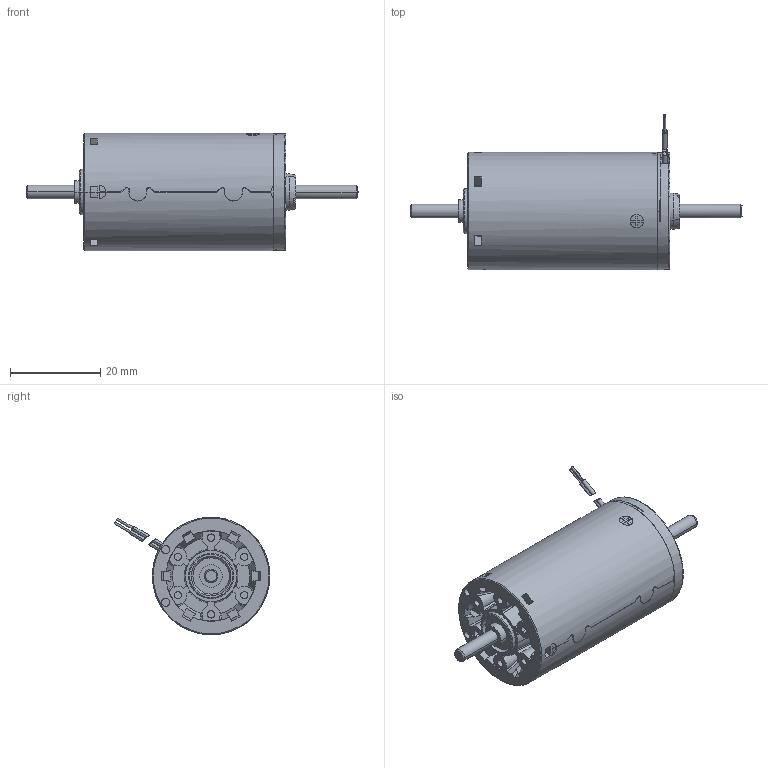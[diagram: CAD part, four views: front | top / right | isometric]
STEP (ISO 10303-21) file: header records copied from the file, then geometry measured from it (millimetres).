
FILE_DESCRIPTION((''),'2;1');
FILE_NAME('353064_AMAX26_EB_4W_SL_2WE_K','2016-10-14T',('mmagvisi'),(''),'CREO PARAMETRIC BY PTC INC, 2016050','CREO PARAMETRIC BY PTC INC, 2016050','');
FILE_SCHEMA(('CONFIG_CONTROL_DESIGN'));
Length unit declared in the file: millimetre
Products named in the file (1): 353064_AMAX26_EB_4W_SL_2WE_K
Bounding box: 73.5 x 34.46 x 26 mm (x, y, z)
Volume: 23185.5 mm3; surface area: 6597.1 mm2
Topology: 3 solids, 3 shells, 345 faces, 930 edges, 609 vertices
Faces by surface type: plane 182, cylinder 114, cone 24, bspline 24, torus 1
Entity records: 17430 total; most frequent: CARTESIAN_POINT 4738, ORIENTED_EDGE 1860, DIRECTION 1645, PRESENTATION_STYLE_ASSIGNMENT 1109, STYLED_ITEM 933, CURVE_STYLE 930, EDGE_CURVE 930, AXIS2_PLACEMENT_3D 610
